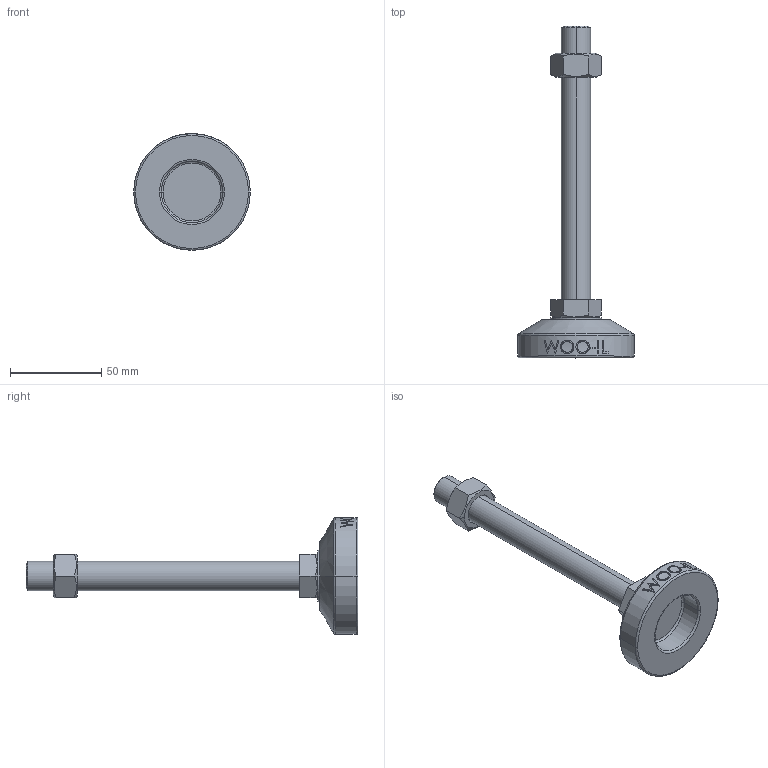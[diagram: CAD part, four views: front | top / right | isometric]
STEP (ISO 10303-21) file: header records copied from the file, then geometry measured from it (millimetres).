
FILE_DESCRIPTION (( 'STEP AP214' ), '1' );
FILE_NAME ('MFZ64-M16-150.step', '2021-01-15T07:06:13', ( '' ), ( '' ), 'SwSTEP 2.0', 'SolidWorks 2019', '' );
FILE_SCHEMA (( 'AUTOMOTIVE_DESIGN' ));
Length unit declared in the file: millimetre
Products named in the file (2): MFZ64-M16-150
Bounding box: 64 x 182 x 64 mm (x, y, z)
Volume: 86550.9 mm3; surface area: 22136.5 mm2
Topology: 3 solids, 3 shells, 106 faces, 243 edges, 154 vertices
Faces by surface type: plane 48, cylinder 18, bspline 16, cone 14, torus 10
Entity records: 4520 total; most frequent: CARTESIAN_POINT 2177, ORIENTED_EDGE 486, DIRECTION 439, EDGE_CURVE 243, AXIS2_PLACEMENT_3D 170, VERTEX_POINT 154, EDGE_LOOP 119, ADVANCED_FACE 106
